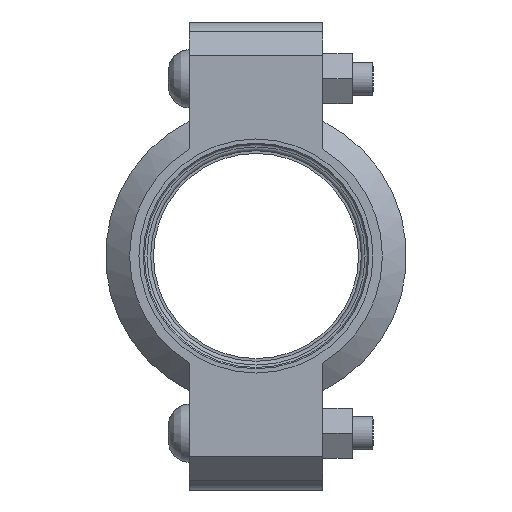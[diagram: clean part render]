
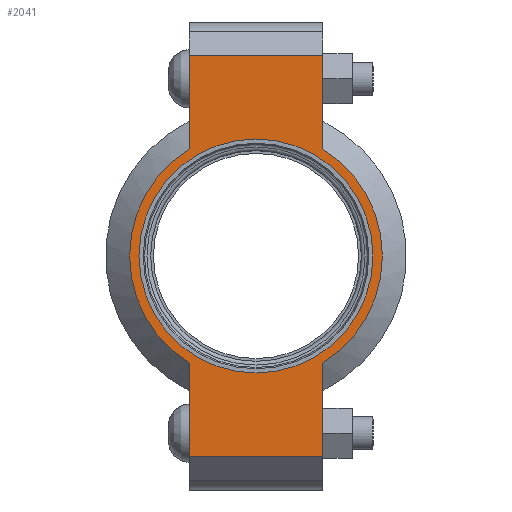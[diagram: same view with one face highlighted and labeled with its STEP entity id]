
A CAD part, left-side view. The second image highlights one B-rep face of the part: STEP entity #2041.
In plain terms, the highlighted planar face has unit normal (-1, 0, 0) as drawn and (0, 0, 1) by its records, which use the part's own axes.
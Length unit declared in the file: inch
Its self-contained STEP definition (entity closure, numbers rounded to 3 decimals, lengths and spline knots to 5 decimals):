
#174=LINE('',#3640,#273);
#182=LINE('',#3676,#281);
#189=LINE('',#3697,#288);
#198=LINE('',#3729,#297);
#199=LINE('',#3733,#298);
#200=LINE('',#3735,#299);
#273=VECTOR('',#2982,0.3937);
#281=VECTOR('',#2998,0.3937);
#288=VECTOR('',#3017,0.3937);
#297=VECTOR('',#3042,0.3937);
#298=VECTOR('',#3047,0.3937);
#299=VECTOR('',#3048,0.3937);
#359=FACE_BOUND('',#629,.T.);
#405=PLANE('',#2406);
#501=FACE_OUTER_BOUND('',#628,.T.);
#628=EDGE_LOOP('',(#1770,#1771,#1772,#1773,#1774,#1775,#1776,#1777));
#629=EDGE_LOOP('',(#1778));
#776=CIRCLE('',#2348,1.75);
#802=CIRCLE('',#2407,1.89);
#803=CIRCLE('',#2408,1.89);
#927=VERTEX_POINT('',#3456);
#970=VERTEX_POINT('',#3637);
#971=VERTEX_POINT('',#3639);
#982=VERTEX_POINT('',#3671);
#983=VERTEX_POINT('',#3675);
#990=VERTEX_POINT('',#3694);
#991=VERTEX_POINT('',#3696);
#1001=VERTEX_POINT('',#3732);
#1002=VERTEX_POINT('',#3734);
#1164=EDGE_CURVE('',#927,#927,#776,.T.);
#1225=EDGE_CURVE('',#971,#970,#174,.T.);
#1239=EDGE_CURVE('',#983,#982,#182,.T.);
#1249=EDGE_CURVE('',#991,#990,#189,.T.);
#1264=EDGE_CURVE('',#983,#970,#198,.T.);
#1265=EDGE_CURVE('',#982,#991,#802,.T.);
#1266=EDGE_CURVE('',#1001,#990,#199,.T.);
#1267=EDGE_CURVE('',#1001,#1002,#200,.T.);
#1268=EDGE_CURVE('',#1002,#971,#803,.T.);
#1770=ORIENTED_EDGE('',*,*,#1264,.F.);
#1771=ORIENTED_EDGE('',*,*,#1239,.T.);
#1772=ORIENTED_EDGE('',*,*,#1265,.T.);
#1773=ORIENTED_EDGE('',*,*,#1249,.T.);
#1774=ORIENTED_EDGE('',*,*,#1266,.F.);
#1775=ORIENTED_EDGE('',*,*,#1267,.T.);
#1776=ORIENTED_EDGE('',*,*,#1268,.T.);
#1777=ORIENTED_EDGE('',*,*,#1225,.T.);
#1778=ORIENTED_EDGE('',*,*,#1164,.T.);
#2041=ADVANCED_FACE('',(#501,#359),#405,.T.);
#2348=AXIS2_PLACEMENT_3D('',#3458,#2858,#2859);
#2406=AXIS2_PLACEMENT_3D('',#3730,#3043,#3044);
#2407=AXIS2_PLACEMENT_3D('',#3731,#3045,#3046);
#2408=AXIS2_PLACEMENT_3D('',#3736,#3049,#3050);
#2858=DIRECTION('center_axis',(0.,0.,-1.));
#2859=DIRECTION('ref_axis',(1.,0.,0.));
#2982=DIRECTION('',(1.,0.,0.));
#2998=DIRECTION('',(-1.,0.,0.));
#3017=DIRECTION('',(-1.,0.,0.));
#3042=DIRECTION('',(0.,-1.,0.));
#3043=DIRECTION('center_axis',(0.,0.,1.));
#3044=DIRECTION('ref_axis',(-1.,0.,0.));
#3045=DIRECTION('center_axis',(0.,0.,1.));
#3046=DIRECTION('ref_axis',(1.,0.,0.));
#3047=DIRECTION('',(0.,1.,0.));
#3048=DIRECTION('',(1.,0.,0.));
#3049=DIRECTION('center_axis',(0.,0.,1.));
#3050=DIRECTION('ref_axis',(1.,0.,0.));
#3456=CARTESIAN_POINT('',(-1.75,0.,0.94));
#3458=CARTESIAN_POINT('Origin',(0.,0.,0.94));
#3637=CARTESIAN_POINT('',(3.,-1.,0.94));
#3639=CARTESIAN_POINT('',(1.60378,-1.,0.94));
#3640=CARTESIAN_POINT('',(3.5,-1.,0.94));
#3671=CARTESIAN_POINT('',(1.60378,1.,0.94));
#3675=CARTESIAN_POINT('',(3.,1.,0.94));
#3676=CARTESIAN_POINT('',(-3.5,1.,0.94));
#3694=CARTESIAN_POINT('',(-3.,1.,0.94));
#3696=CARTESIAN_POINT('',(-1.60378,1.,0.94));
#3697=CARTESIAN_POINT('',(-3.5,1.,0.94));
#3729=CARTESIAN_POINT('',(3.,-0.5,0.94));
#3730=CARTESIAN_POINT('Origin',(0.,0.,
0.94));
#3731=CARTESIAN_POINT('Origin',(0.,0.,0.94));
#3732=CARTESIAN_POINT('',(-3.,-1.,0.94));
#3733=CARTESIAN_POINT('',(-3.,0.5,0.94));
#3734=CARTESIAN_POINT('',(-1.60378,-1.,0.94));
#3735=CARTESIAN_POINT('',(3.5,-1.,0.94));
#3736=CARTESIAN_POINT('Origin',(0.,0.,0.94));
